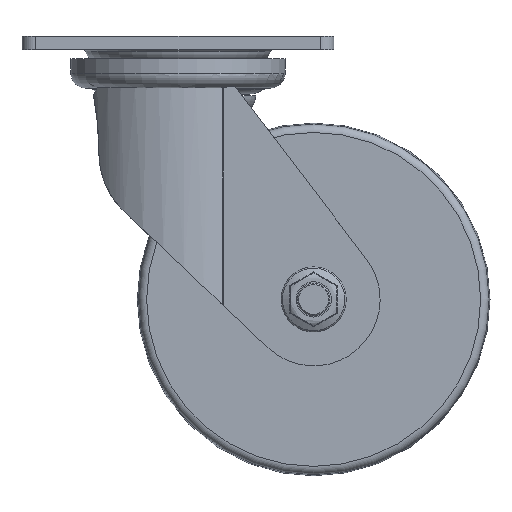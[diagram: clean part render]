
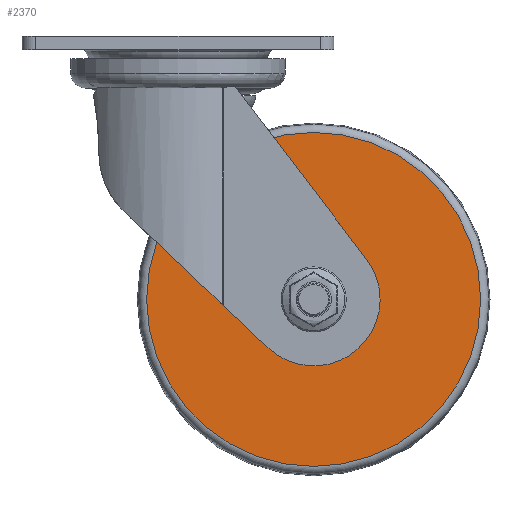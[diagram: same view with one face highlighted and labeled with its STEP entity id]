
A CAD part, front view. The second image highlights one B-rep face of the part: STEP entity #2370.
In plain terms, the highlighted planar face has unit normal (0, -1, 0).
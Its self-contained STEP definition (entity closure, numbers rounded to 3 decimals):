
#38=FACE_BOUND('',#766,.T.);
#90=PLANE('',#2597);
#619=FACE_OUTER_BOUND('',#765,.T.);
#765=EDGE_LOOP('',(#1899));
#766=EDGE_LOOP('',(#1900));
#917=CIRCLE('',#2533,61.556);
#920=CIRCLE('',#2538,10.);
#1038=VERTEX_POINT('',#3679);
#1040=VERTEX_POINT('',#3687);
#1288=EDGE_CURVE('',#1038,#1038,#917,.T.);
#1291=EDGE_CURVE('',#1040,#1040,#920,.T.);
#1899=ORIENTED_EDGE('',*,*,#1288,.F.);
#1900=ORIENTED_EDGE('',*,*,#1291,.T.);
#2370=ADVANCED_FACE('',(#619,#38),#90,.T.);
#2533=AXIS2_PLACEMENT_3D('',#3681,#2869,#2870);
#2538=AXIS2_PLACEMENT_3D('',#3688,#2879,#2880);
#2597=AXIS2_PLACEMENT_3D('',#5322,#3031,#3032);
#2869=DIRECTION('center_axis',(0.,1.,0.));
#2870=DIRECTION('ref_axis',(0.,0.,1.));
#2879=DIRECTION('center_axis',(0.,1.,0.));
#2880=DIRECTION('ref_axis',(0.,0.,1.));
#3031=DIRECTION('center_axis',(0.,-1.,0.));
#3032=DIRECTION('ref_axis',(0.,0.,-1.));
#3679=CARTESIAN_POINT('',(-67.607,-269.543,173.879));
#3681=CARTESIAN_POINT('Origin',(-67.607,-269.543,235.436));
#3687=CARTESIAN_POINT('',(-67.607,-269.543,225.436));
#3688=CARTESIAN_POINT('Origin',(-67.607,-269.543,235.436));
#5322=CARTESIAN_POINT('Origin',(-67.607,-269.543,271.214));
